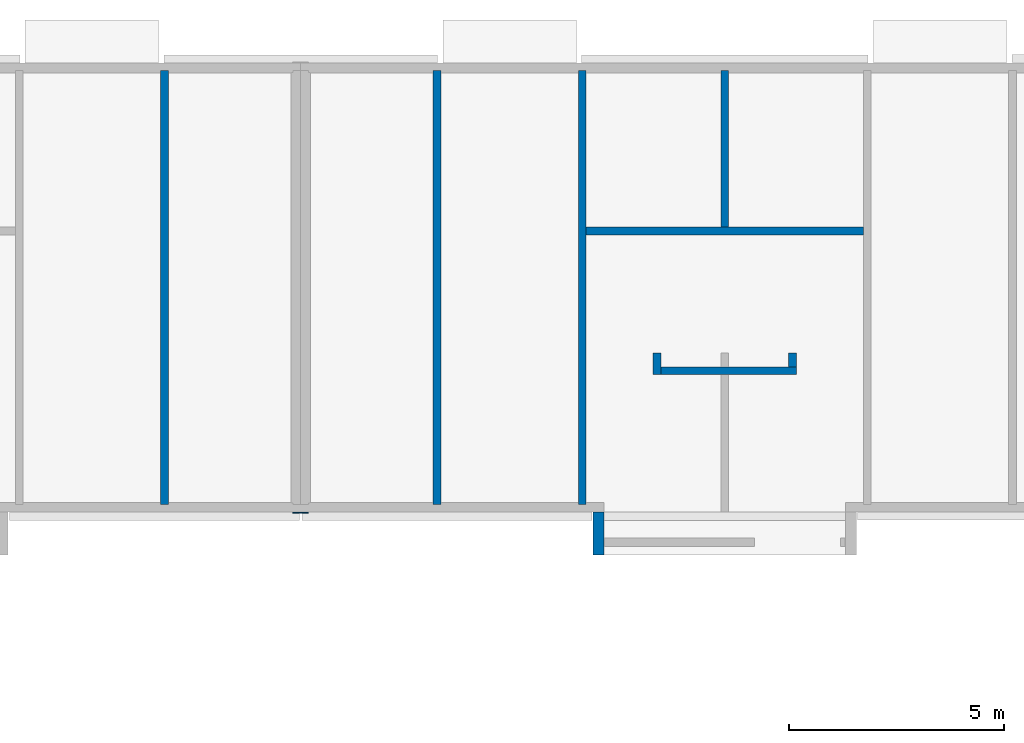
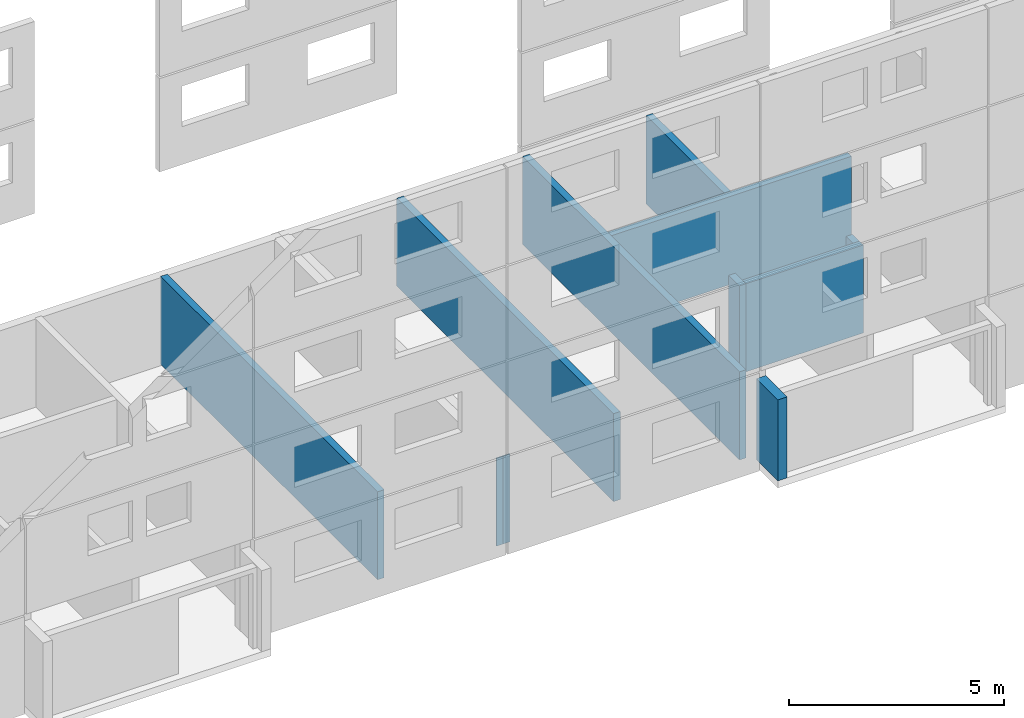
# One storey, part 2 of 15: 11 walls.
"""IFC2X3 building model written with IfcOpenShell, lengths in metres."""

import ifcopenshell
import ifcopenshell.guid

model = None  # the IFC model being written
_history = None  # IfcOwnerHistory: only IFC2X3 demands one
_inside = {}  # id of a spatial element -> (the spatial element, [elements in it])
_under = {}  # id of a project, library or spatial element -> (it, [spatial elements below it])
_declared = {}  # id of a project -> (the project, [libraries it declares])
_typed = {}  # id of a type object -> (the type object, [elements of that type])
_made_of = {}  # id of a material, layer set ... -> (it, [elements and type objects made of it])


def new_model(schema):
    """Start an empty IFC model of exactly this schema.

    Asked for "IFC4X3", IfcOpenShell would pick the latest addendum, in which some entities
    have other attributes; the version numbers below select the first issue.
    IFC2X3 requires an IfcOwnerHistory on every rooted entity: one is made here for all.
    """
    global model, _history
    if schema == "IFC4X3":
        model = ifcopenshell.file(schema_version=(4, 3, 0, 0))
    else:
        model = ifcopenshell.file(schema=schema)
    _inside.clear()
    _under.clear()
    _declared.clear()
    _typed.clear()
    _made_of.clear()
    _history = None
    if model.schema == "IFC2X3":
        org = make("IfcOrganization", Name="unknown")
        user = make(
            "IfcPersonAndOrganization",
            ThePerson=make("IfcPerson", FamilyName="unknown"),
            TheOrganization=org,
        )
        app = make(
            "IfcApplication",
            ApplicationDeveloper=org,
            Version="unknown",
            ApplicationFullName="unknown",
            ApplicationIdentifier="unknown",
        )
        _history = make(
            "IfcOwnerHistory",
            OwningUser=user,
            OwningApplication=app,
            ChangeAction="ADDED",
            CreationDate=0,
        )
    return model


def make(cls, **values):
    """One entity of the class cls with the attributes given. An attribute that is None is left unset."""
    return model.create_entity(
        cls, **{name: value for name, value in values.items() if value is not None}
    )


def rooted(cls, **values):
    """An entity with a GlobalId (a new one), such as an element, a storey or a relation."""
    return make(cls, GlobalId=ifcopenshell.guid.new(), OwnerHistory=_history, **values)


def si_unit(unit_type, name, prefix=None):
    """IfcSIUnit, for example si_unit("LENGTHUNIT", "METRE", prefix="MILLI")."""
    return make("IfcSIUnit", UnitType=unit_type, Prefix=prefix, Name=name)


def assignment(units):
    """IfcUnitAssignment: the units of a project."""
    return None if units is None else make("IfcUnitAssignment", Units=units)


def point(xyz):
    """IfcCartesianPoint."""
    return None if xyz is None else make("IfcCartesianPoint", Coordinates=xyz)


def direction(xyz):
    """IfcDirection."""
    return None if xyz is None else make("IfcDirection", DirectionRatios=xyz)


def frame(location, z_axis=None, x_axis=None):
    """IfcAxis2Placement3D, a coordinate frame: its origin and axes. An axis left out is left unset."""
    return make(
        "IfcAxis2Placement3D",
        Location=point(location),
        Axis=direction(z_axis),
        RefDirection=direction(x_axis),
    )


def frame_2d(location, x_axis=None):
    """IfcAxis2Placement2D, a coordinate frame in the plane: its origin and x axis."""
    return make(
        "IfcAxis2Placement2D", Location=point(location), RefDirection=direction(x_axis)
    )


def origin():
    """The frame at (0, 0, 0) with its axes left unset."""
    return frame((0.0, 0.0, 0.0))


def origin_with_axes():
    """The frame at (0, 0, 0) with the z axis (0, 0, 1) and the x axis (1, 0, 0) written out."""
    return frame((0.0, 0.0, 0.0), z_axis=(0.0, 0.0, 1.0), x_axis=(1.0, 0.0, 0.0))


def place(relative_to, where):
    """IfcLocalPlacement: puts the frame where relative to a parent placement (None: the world)."""
    return make(
        "IfcLocalPlacement", PlacementRelTo=relative_to, RelativePlacement=where
    )


def context(
    kind, dimensions, precision=None, world=None, true_north=None, identifier=None
):
    """IfcGeometricRepresentationContext, for example the 3D "Model" context."""
    return make(
        "IfcGeometricRepresentationContext",
        ContextIdentifier=identifier,
        ContextType=kind,
        CoordinateSpaceDimension=dimensions,
        Precision=precision,
        WorldCoordinateSystem=world,
        TrueNorth=true_north,
    )


def project(units=None, contexts=None):
    """IfcProject with its units and contexts."""
    return rooted(
        "IfcProject",
        Name="project",
        RepresentationContexts=contexts,
        UnitsInContext=assignment(units),
    )


def spatial(cls, under=None, at=None, **own):
    """A site, building, storey or space (cls), placed at a placement, below another one or the project."""
    s = rooted(cls, ObjectPlacement=at, **own)
    if under is not None:
        _under.setdefault(under.id(), (under, []))[1].append(s)
    return s


def profile(cls, at=None, kind="AREA", **sizes):
    """A parametric profile (cls). Its sizes go by their IFC names, for example OverallWidth=200.0."""
    return make(cls, ProfileType=kind, Position=at, **sizes)


def rectangle(**sizes):
    """IfcRectangleProfileDef."""
    return profile("IfcRectangleProfileDef", **sizes)


def extrude(swept, where, along, depth):
    """IfcExtrudedAreaSolid: the profile swept, set in the frame where, extruded along a direction by depth."""
    return make(
        "IfcExtrudedAreaSolid",
        SweptArea=swept,
        Position=where,
        ExtrudedDirection=direction(along),
        Depth=depth,
    )


def shape(context_of_items, identifier, shape_type, items):
    """IfcShapeRepresentation: the items that make up one representation, for example the "Body"."""
    return make(
        "IfcShapeRepresentation",
        ContextOfItems=context_of_items,
        RepresentationIdentifier=identifier,
        RepresentationType=shape_type,
        Items=items,
    )


def made_of(thing, what):
    """Note that an element or type object is made of a material, layer set ...; save() writes the relation."""
    if what is not None:
        _made_of.setdefault(what.id(), (what, []))[1].append(thing)
    return thing


def element(
    cls,
    number,
    at=None,
    inside=None,
    cuts=None,
    type_object=None,
    material=None,
    context=None,
    identifier="Body",
    shape_type=None,
    held_by="IfcProductDefinitionShape",
    body=None,
    shapes=None,
    **own,
):
    """One element of the class cls, such as IfcWall. Its Tag is "e" and its number.

    at: its placement. inside: the storey or other place that contains it. cuts: it is an
    opening in that element (IfcRelVoidsElement). A single representation is given by context,
    identifier, shape_type and body (its items); several are given by shapes. held_by: the class
    of the entity that holds the representations. save() writes the other relations.
    """
    e = rooted(cls, Tag="e%d" % number, ObjectPlacement=at, **own)
    if body is not None:
        shapes = [shape(context, identifier, shape_type, body)]
    if shapes is not None:
        e.Representation = make(held_by, Representations=shapes)
    if inside is not None:
        _inside.setdefault(inside.id(), (inside, []))[1].append(e)
    if cuts is not None:
        rooted(
            "IfcRelVoidsElement", RelatingBuildingElement=cuts, RelatedOpeningElement=e
        )
    if type_object is not None:
        _typed.setdefault(type_object.id(), (type_object, []))[1].append(e)
    return made_of(e, material)


def aggregate(whole, parts):
    """IfcRelAggregates: a whole, such as a stair, and the parts it consists of."""
    return rooted("IfcRelAggregates", RelatingObject=whole, RelatedObjects=parts)


def save(model, path):
    """Write the relations noted so far, then the file.

    IfcRelAggregates (storeys below a building ...), IfcRelContainedInSpatialStructure (elements
    in a storey), IfcRelDefinesByType, IfcRelAssociatesMaterial and IfcRelDeclares: one each for
    every whole, place, type object, material and project.
    """
    for whole, parts in _under.values():
        aggregate(whole, parts)
    for where, things in _inside.values():
        rooted(
            "IfcRelContainedInSpatialStructure",
            RelatedElements=things,
            RelatingStructure=where,
        )
    for kind, things in _typed.values():
        rooted("IfcRelDefinesByType", RelatedObjects=things, RelatingType=kind)
    for what, things in _made_of.values():
        rooted("IfcRelAssociatesMaterial", RelatedObjects=things, RelatingMaterial=what)
    for by, libraries in _declared.values():
        rooted("IfcRelDeclares", RelatingContext=by, RelatedDefinitions=libraries)
    model.write(path)


model = new_model("IFC2X3")

# Units and contexts
model_context = context("Model", 3, precision=1e-06, world=origin())
ifc_project = project(units=[si_unit("LENGTHUNIT", "METRE"), si_unit("PLANEANGLEUNIT", "RADIAN")], contexts=[model_context])

# Site, building, storey
site = spatial("IfcSite", under=ifc_project, CompositionType="ELEMENT")
building = spatial("IfcBuilding", under=site, CompositionType="ELEMENT")
storey = spatial("IfcBuildingStorey", under=building, Name="rdc", CompositionType="ELEMENT", Elevation=0.0)

# Walls
placement = place(None, origin())
wall_1_placement = place(placement, frame((32.939999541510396, 6.650077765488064, 0.0), z_axis=(0.0, 0.0, 1.0), x_axis=(-1.0, 0.0, 0.0)))
element("IfcWall", 1, at=wall_1_placement, inside=storey, context=model_context, shape_type="SweptSolid", body=[
    extrude(rectangle(XDim=6.449999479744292, YDim=0.18, at=frame_2d((3.224999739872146, 0.09), x_axis=(1.0, 0.0)), kind="CURVE"), origin_with_axes(), (0.0, 0.0, 1.0), 2.5),
])
wall_2_placement = place(placement, frame((29.80499999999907, 6.650077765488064, 0.0), z_axis=(0.0, 0.0, 1.0), x_axis=(0.0, 1.0, 0.0)))
element("IfcWall", 2, at=wall_2_placement, inside=storey, context=model_context, shape_type="SweptSolid", body=[
    extrude(rectangle(XDim=3.639999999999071, YDim=0.18, at=frame_2d((1.819999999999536, 0.09), x_axis=(1.0, 0.0)), kind="CURVE"), origin_with_axes(), (0.0, 0.0, 1.0), 2.5),
])
for number, where, z_axis, x_axis in (
    (3, (26.49000006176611, 0.200077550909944, 0.0), (0.0, 0.0, 1.0), (0.0, 1.0, 0.0)),
    (4, (16.77000000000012, 0.200077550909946, 0.0), (0.0, 0.0, 1.0), (0.0, 1.0, 0.0)),
):
    element("IfcWall", number, at=place(placement, frame(where, z_axis=z_axis, x_axis=x_axis)), inside=storey, context=model_context, shape_type="SweptSolid", body=[
        extrude(rectangle(XDim=10.090000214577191, YDim=0.18, at=frame_2d((5.045000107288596, 0.09), x_axis=(1.0, 0.0)), kind="CURVE"), origin_with_axes(), (0.0, 0.0, 1.0), 2.5),
    ])
wall_3_placement = place(placement, frame((31.19999951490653, 3.720077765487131, 0.0), z_axis=(0.0, 0.0, 1.0), x_axis=(0.0, -1.0, 0.0)))
element("IfcWall", 5, at=wall_3_placement, inside=storey, context=model_context, shape_type="SweptSolid", body=[
    extrude(rectangle(XDim=0.32, YDim=0.18, at=frame_2d((0.16, 0.09), x_axis=(1.0, 0.0)), kind="CURVE"), origin_with_axes(), (0.0, 0.0, 1.0), 2.5),
])
wall_4_placement = place(placement, frame((28.22999951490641, 3.220077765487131, 0.0), z_axis=(0.0, 0.0, 1.0), x_axis=(0.0, 1.0, 0.0)))
element("IfcWall", 6, at=wall_4_placement, inside=storey, context=model_context, shape_type="SweptSolid", body=[
    extrude(rectangle(XDim=0.5, YDim=0.18, at=frame_2d((0.25, 0.09), x_axis=(1.0, 0.0)), kind="CURVE"), origin_with_axes(), (0.0, 0.0, 1.0), 2.5),
])
wall_5_placement = place(placement, frame((23.10999999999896, 0.200077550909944, 0.0), z_axis=(0.0, 0.0, 1.0), x_axis=(0.0, 1.0, 0.0)))
element("IfcWall", 7, at=wall_5_placement, inside=storey, context=model_context, shape_type="SweptSolid", body=[
    extrude(rectangle(XDim=10.090000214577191, YDim=0.18, at=frame_2d((5.045000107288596, 0.09), x_axis=(1.0, 0.0)), kind="CURVE"), origin_with_axes(), (0.0, 0.0, 1.0), 2.5),
])
wall_6_placement = place(placement, frame((31.37999951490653, 3.400077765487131, 0.0), z_axis=(0.0, 0.0, 1.0), x_axis=(-1.0, 0.0, 0.0)))
element("IfcWall", 8, at=wall_6_placement, inside=storey, context=model_context, shape_type="SweptSolid", body=[
    extrude(rectangle(XDim=3.150000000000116, YDim=0.18, at=frame_2d((1.575000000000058, 0.09), x_axis=(1.0, 0.0)), kind="CURVE"), origin_with_axes(), (0.0, 0.0, 1.0), 2.5),
])
wall_7_placement = place(placement, frame((26.905000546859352, -0.979836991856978, 0.0), z_axis=(0.0, 0.0, 1.0), x_axis=(0.0, 1.0, 0.0)))
element("IfcWall", 9, at=wall_7_placement, inside=storey, context=model_context, shape_type="SweptSolid", body=[
    extrude(rectangle(XDim=0.999999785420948, YDim=0.25, at=frame_2d((0.499999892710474, 0.125), x_axis=(1.0, 0.0)), kind="CURVE"), origin_with_axes(), (0.0, 0.0, 1.0), 2.300000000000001),
])
for number, where, z_axis, x_axis in (
    (10, (19.849999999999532, 2e-15, 0.0), (0.0, 0.0, 1.0), (-1.0, 0.0, 0.0)),
    (11, (20.029999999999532, 2e-15, 0.0), (0.0, 0.0, 1.0), (-1.0, 0.0, 0.0)),
):
    element("IfcWall", number, at=place(placement, frame(where, z_axis=z_axis, x_axis=x_axis)), inside=storey, context=model_context, shape_type="SweptSolid", body=[
        extrude(rectangle(XDim=0.18, YDim=0.020162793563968, at=frame_2d((0.09, 0.010081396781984), x_axis=(1.0, 0.0)), kind="CURVE"), frame((0.0, -0.020162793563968, 0.0), z_axis=(0.0, 0.0, 1.0), x_axis=(1.0, 0.0, 0.0)), (0.0, 0.0, 1.0), 2.5),
    ])

save(model, "model.ifc")
